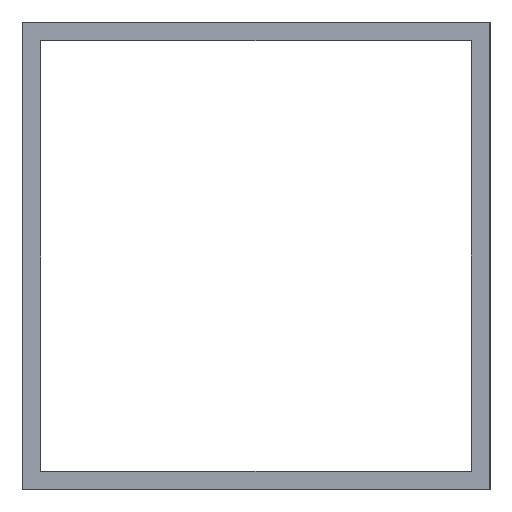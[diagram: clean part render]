
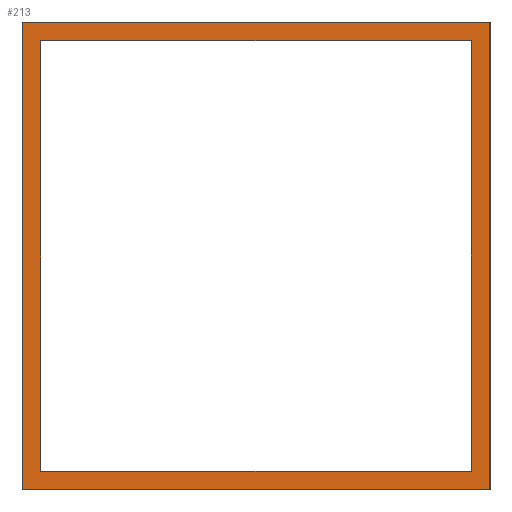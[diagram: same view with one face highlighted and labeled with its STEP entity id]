
A CAD part, left-side view. The second image highlights one B-rep face of the part: STEP entity #213.
In plain terms, the highlighted planar face has unit normal (-1, 0, 0).
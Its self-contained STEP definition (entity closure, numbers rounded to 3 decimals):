
#27=CARTESIAN_POINT('',(2569.0,3.537,30.0));
#28=VERTEX_POINT('',#27);
#45=CARTESIAN_POINT('',(2569.0,3.537,130.0));
#46=VERTEX_POINT('',#45);
#53=CARTESIAN_POINT('',(2569.0,3.537,30.0));
#54=DIRECTION('',(0.0,0.0,1.0));
#55=VECTOR('',#54,1.);
#56=LINE('',#53,#55);
#57=EDGE_CURVE('',#28,#46,#56,.T.);
#132=CARTESIAN_POINT('',(2569.0,103.537,30.0));
#133=VERTEX_POINT('',#132);
#140=CARTESIAN_POINT('',(2569.0,103.537,130.0));
#141=VERTEX_POINT('',#140);
#142=CARTESIAN_POINT('',(2569.0,103.537,30.0));
#143=DIRECTION('',(0.0,0.0,1.0));
#144=VECTOR('',#143,1.);
#145=LINE('',#142,#144);
#146=EDGE_CURVE('',#133,#141,#145,.T.);
#158=CARTESIAN_POINT('',(2569.0,103.537,30.0));
#159=DIRECTION('',(-1.0,0.0,0.0));
#160=DIRECTION('',(0.0,-1.0,0.0));
#161=AXIS2_PLACEMENT_3D('',#158,#159,#160);
#162=PLANE('',#161);
#163=CARTESIAN_POINT('',(2569.0,103.537,30.0));
#164=DIRECTION('',(0.,-1.0,0.0));
#165=VECTOR('',#164,1.);
#166=LINE('',#163,#165);
#167=EDGE_CURVE('',#133,#28,#166,.T.);
#168=ORIENTED_EDGE('',*,*,#167,.T.);
#169=ORIENTED_EDGE('',*,*,#57,.T.);
#170=CARTESIAN_POINT('',(2569.0,103.537,130.0));
#171=DIRECTION('',(0.,-1.0,0.0));
#172=VECTOR('',#171,1.);
#173=LINE('',#170,#172);
#174=EDGE_CURVE('',#141,#46,#173,.T.);
#175=ORIENTED_EDGE('',*,*,#174,.F.);
#176=ORIENTED_EDGE('',*,*,#146,.F.);
#177=EDGE_LOOP('',(#168,#169,#175,#176));
#178=FACE_OUTER_BOUND('',#177,.T.);
#179=CARTESIAN_POINT('',(2569.0,7.537,34.0));
#180=VERTEX_POINT('',#179);
#181=CARTESIAN_POINT('',(2569.0,99.537,34.));
#182=VERTEX_POINT('',#181);
#183=CARTESIAN_POINT('',(2569.0,7.537,34.0));
#184=DIRECTION('',(0.0,1.0,0.0));
#185=VECTOR('',#184,1.);
#186=LINE('',#183,#185);
#187=EDGE_CURVE('',#180,#182,#186,.T.);
#188=ORIENTED_EDGE('',*,*,#187,.T.);
#189=CARTESIAN_POINT('',(2569.0,99.537,126.0));
#190=VERTEX_POINT('',#189);
#191=CARTESIAN_POINT('',(2569.0,99.537,126.0));
#192=DIRECTION('',(0.0,0.0,-1.0));
#193=VECTOR('',#192,1.);
#194=LINE('',#191,#193);
#195=EDGE_CURVE('',#190,#182,#194,.T.);
#196=ORIENTED_EDGE('',*,*,#195,.F.);
#197=CARTESIAN_POINT('',(2569.0,7.537,126.));
#198=VERTEX_POINT('',#197);
#199=CARTESIAN_POINT('',(2569.0,7.537,126.0));
#200=DIRECTION('',(0.0,1.0,0.0));
#201=VECTOR('',#200,1.);
#202=LINE('',#199,#201);
#203=EDGE_CURVE('',#198,#190,#202,.T.);
#204=ORIENTED_EDGE('',*,*,#203,.F.);
#205=CARTESIAN_POINT('',(2569.0,7.537,34.0));
#206=DIRECTION('',(0.0,0.0,1.0));
#207=VECTOR('',#206,1.);
#208=LINE('',#205,#207);
#209=EDGE_CURVE('',#180,#198,#208,.T.);
#210=ORIENTED_EDGE('',*,*,#209,.F.);
#211=EDGE_LOOP('',(#188,#196,#204,#210));
#212=FACE_BOUND('',#211,.T.);
#213=ADVANCED_FACE('',(#178,#212),#162,.T.);
